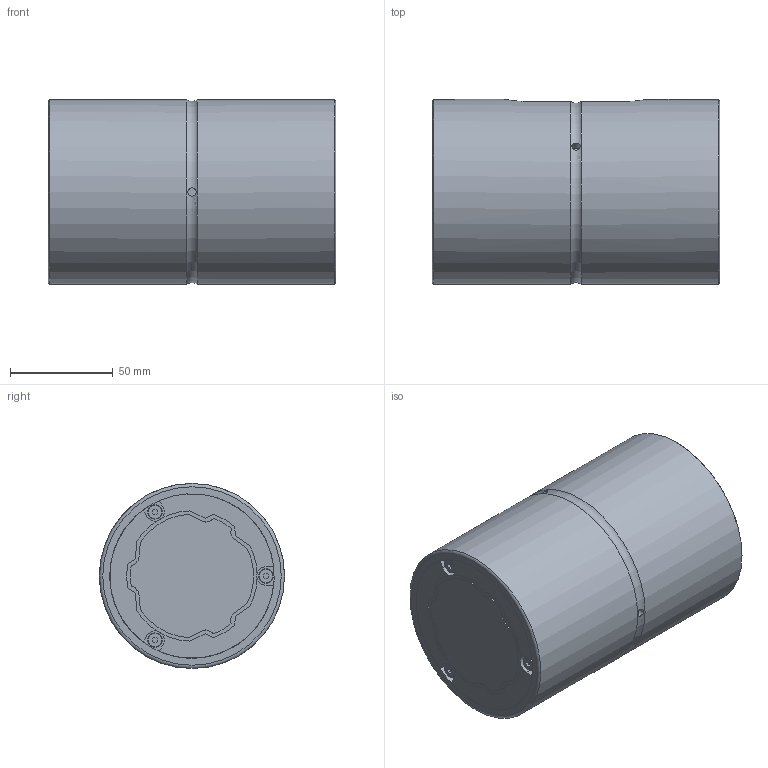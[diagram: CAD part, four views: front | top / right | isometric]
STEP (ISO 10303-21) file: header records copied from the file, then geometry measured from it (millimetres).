
FILE_DESCRIPTION(/* description */ ('STEP AP203'),/* implementation_level */ '2;1');
FILE_NAME(/* name */ 'SLS60L1140(00)',/* time_stamp */ '2024-05-23T11:47:07+02:00',/* author */ ('License CC BY-ND 4.0'),/* organization */ ('CADENAS'),/* preprocessor_version */ 'ST-DEVELOPER v19.3',/* originating_system */ 'PARTsolutions',/* authorisation */ ' ');
FILE_SCHEMA (('CONFIG_CONTROL_DESIGN'));
Length unit declared in the file: millimetre
Products named in the file (3): SLS60L1140(00); 60(L140); 60L cylinder
Assembly tree (2 placements, depth 2):
  SLS60L1140(00)
    60(L140)
    60L cylinder
Bounding box: 140 x 90 x 90 mm (x, y, z)
Volume: 881353 mm3; surface area: 109033.1 mm2
Topology: 2 solids, 2 shells, 240 faces, 652 edges, 433 vertices
Faces by surface type: plane 132, cylinder 99, torus 9
Full cylindrical faces by diameter (mm): 4 x3, 7 x6, 80 x2, 90 x2
Entity records: 7586 total; most frequent: CARTESIAN_POINT 1363, DIRECTION 1326, ORIENTED_EDGE 1248, EDGE_CURVE 624, AXIS2_PLACEMENT_3D 466, VERTEX_POINT 426, LINE 394, VECTOR 394
